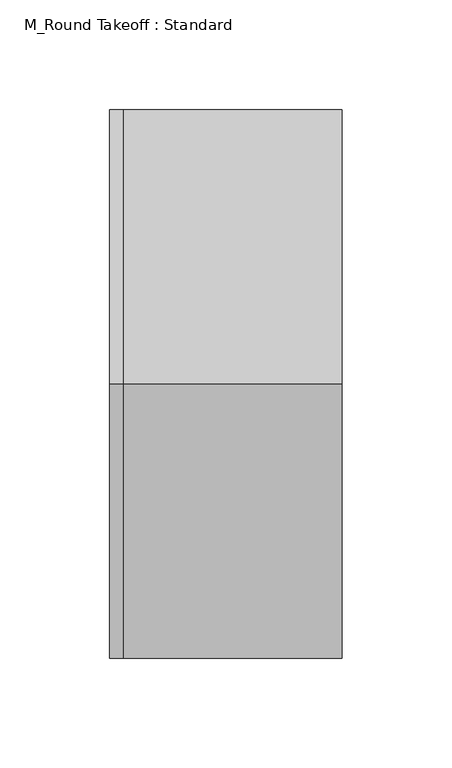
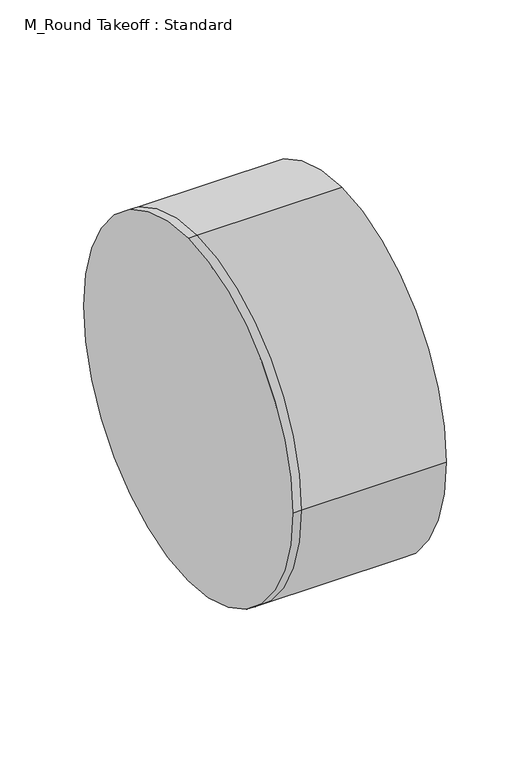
"""IFC4 building model written with IfcOpenShell, lengths in millimetres: duct fitting geometry, M_Round Takeoff : Standard."""

from ifc_helpers import new_model, si_unit, frame, origin, place, context, project, spatial, circle_curve, source, transform, mapped, element, save
from ifc_brep_helpers import plane_surface, cylinder_surface, advanced_brep


def m_round_takeoff_standard_4aec91d0(model_context):
    return source(origin(), model_context, "Body", "AdvancedBrep", [
        advanced_brep(
        [(-6.0977045, 0.0, 125.0), (-6.0977045, 125.0, 0.0), (-6.0977045, 0.0, -125.0), (-6.0977045, -125.0, 0.0), (0.0, 0.0, 125.0), (0.0, 125.0, 0.0), (0.0, 0.0, -125.0), (0.0, -125.0, 0.0), (100.0017045, 0.0, 125.0), (100.0017045, -125.0, 0.0), (100.0017045, 0.0, -125.0), (100.0017045, 125.0, 0.0)],
        [
            (0, 1, circle_curve(frame((-6.0977045, 0.0, 0.0), z_axis=(-1.0, 0.0, 0.0), x_axis=(0.0, 1.0, 0.0)), 125.0)),
            (1, 2, circle_curve(frame((-6.0977045, 0.0, 0.0), z_axis=(-1.0, 0.0, 0.0), x_axis=(0.0, 1.0, 0.0)), 125.0)),
            (2, 3, circle_curve(frame((-6.0977045, 0.0, 0.0), z_axis=(-1.0, 0.0, 0.0), x_axis=(0.0, 1.0, 0.0)), 125.0)),
            (3, 0, circle_curve(frame((-6.0977045, 0.0, 0.0), z_axis=(-1.0, 0.0, 0.0), x_axis=(0.0, 1.0, 0.0)), 125.0)),
            (0, 4),
            (4, 5, circle_curve(frame((0.0, 0.0, 0.0), z_axis=(-1.0, 0.0, 0.0), x_axis=(0.0, 1.0, 0.0)), 125.0)),
            (5, 1),
            (5, 6, circle_curve(frame((0.0, 0.0, 0.0), z_axis=(-1.0, 0.0, 0.0), x_axis=(0.0, 1.0, 0.0)), 125.0)),
            (6, 2),
            (6, 7, circle_curve(frame((0.0, 0.0, 0.0), z_axis=(-1.0, 0.0, 0.0), x_axis=(0.0, 1.0, 0.0)), 125.0)),
            (7, 3),
            (7, 4, circle_curve(frame((0.0, 0.0, 0.0), z_axis=(-1.0, 0.0, 0.0), x_axis=(0.0, 1.0, 0.0)), 125.0)),
            (8, 9, circle_curve(frame((100.0017045, 0.0, 0.0), z_axis=(1.0, 0.0, 0.0), x_axis=(0.0, 1.0, 0.0)), 125.0)),
            (9, 10, circle_curve(frame((100.0017045, 0.0, 0.0), z_axis=(1.0, 0.0, 0.0), x_axis=(0.0, 1.0, 0.0)), 125.0)),
            (10, 11, circle_curve(frame((100.0017045, 0.0, 0.0), z_axis=(1.0, 0.0, 0.0), x_axis=(0.0, 1.0, 0.0)), 125.0)),
            (11, 8, circle_curve(frame((100.0017045, 0.0, 0.0), z_axis=(1.0, 0.0, 0.0), x_axis=(0.0, 1.0, 0.0)), 125.0)),
            (11, 5),
            (4, 8),
            (10, 6),
            (9, 7),
        ],
        [
            plane_surface(frame((-6.0977045, 0.0, 0.0), z_axis=(-1.0, 0.0, 0.0), x_axis=(0.0, 0.0, 1.0))),
            cylinder_surface(frame((-6.0977045, 0.0, 0.0), z_axis=(-1.0, 0.0, 0.0), x_axis=(0.0, 1.0, 0.0)), 125.0),
            plane_surface(frame((100.0017045, 0.0, 0.0), z_axis=(1.0, 0.0, 0.0), x_axis=(0.0, 0.0, 1.0))),
            cylinder_surface(frame((0.0, 0.0, 0.0), z_axis=(-1.0, 0.0, 0.0), x_axis=(0.0, 1.0, 0.0)), 125.0),
        ],
        [
            (0, [[1, 2, 3, 4]]),
            (1, [[-1, 5, 6, 7]]),
            (1, [[-2, -7, 8, 9]]),
            (1, [[-3, -9, 10, 11]]),
            (1, [[-4, -11, 12, -5]]),
            (2, [[13, 14, 15, 16]]),
            (3, [[-16, 17, -6, 18]]),
            (3, [[-15, 19, -8, -17]]),
            (3, [[-14, 20, -10, -19]]),
            (3, [[-13, -18, -12, -20]]),
        ],
    ),
        advanced_brep(
        [(100.0017045, 0.0, 125.0), (100.0017045, -125.0, 0.0), (100.0017045, 0.0, -125.0), (100.0017045, 125.0, 0.0), (0.0, 125.0, 0.0), (0.0, 0.0, 125.0), (0.0, 0.0, -125.0), (0.0, -125.0, 0.0), (-6.0977045, 0.0, 125.0), (-6.0977045, 125.0, 0.0), (-6.0977045, 0.0, -125.0), (-6.0977045, -125.0, 0.0)],
        [
            (0, 1, circle_curve(frame((100.0017045, 0.0, 0.0), z_axis=(1.0, 0.0, 0.0), x_axis=(0.0, 1.0, 0.0)), 125.0)),
            (1, 2, circle_curve(frame((100.0017045, 0.0, 0.0), z_axis=(1.0, 0.0, 0.0), x_axis=(0.0, 1.0, 0.0)), 125.0)),
            (2, 3, circle_curve(frame((100.0017045, 0.0, 0.0), z_axis=(1.0, 0.0, 0.0), x_axis=(0.0, 1.0, 0.0)), 125.0)),
            (3, 0, circle_curve(frame((100.0017045, 0.0, 0.0), z_axis=(1.0, 0.0, 0.0), x_axis=(0.0, 1.0, 0.0)), 125.0)),
            (3, 4),
            (4, 5, circle_curve(frame((0.0, 0.0, 0.0), z_axis=(1.0, 0.0, 0.0), x_axis=(0.0, 1.0, 0.0)), 125.0)),
            (5, 0),
            (2, 6),
            (6, 4, circle_curve(frame((0.0, 0.0, 0.0), z_axis=(1.0, 0.0, 0.0), x_axis=(0.0, 1.0, 0.0)), 125.0)),
            (1, 7),
            (7, 6, circle_curve(frame((0.0, 0.0, 0.0), z_axis=(1.0, 0.0, 0.0), x_axis=(0.0, 1.0, 0.0)), 125.0)),
            (5, 7, circle_curve(frame((0.0, 0.0, 0.0), z_axis=(1.0, 0.0, 0.0), x_axis=(0.0, 1.0, 0.0)), 125.0)),
            (8, 9, circle_curve(frame((-6.0977045, 0.0, 0.0), z_axis=(-1.0, 0.0, 0.0), x_axis=(0.0, 1.0, 0.0)), 125.0)),
            (9, 10, circle_curve(frame((-6.0977045, 0.0, 0.0), z_axis=(-1.0, 0.0, 0.0), x_axis=(0.0, 1.0, 0.0)), 125.0)),
            (10, 11, circle_curve(frame((-6.0977045, 0.0, 0.0), z_axis=(-1.0, 0.0, 0.0), x_axis=(0.0, 1.0, 0.0)), 125.0)),
            (11, 8, circle_curve(frame((-6.0977045, 0.0, 0.0), z_axis=(-1.0, 0.0, 0.0), x_axis=(0.0, 1.0, 0.0)), 125.0)),
            (8, 5),
            (4, 9),
            (6, 10),
            (7, 11),
        ],
        [
            plane_surface(frame((100.0017045, 0.0, 0.0), z_axis=(1.0, 0.0, 0.0), x_axis=(0.0, 0.0, 1.0))),
            cylinder_surface(frame((0.0, 0.0, 0.0), z_axis=(-1.0, 0.0, 0.0), x_axis=(0.0, 1.0, 0.0)), 125.0),
            plane_surface(frame((-6.0977045, 0.0, 0.0), z_axis=(-1.0, 0.0, 0.0), x_axis=(0.0, 0.0, 1.0))),
            cylinder_surface(frame((-6.0977045, 0.0, 0.0), z_axis=(-1.0, 0.0, 0.0), x_axis=(0.0, 1.0, 0.0)), 125.0),
        ],
        [
            (0, [[1, 2, 3, 4]]),
            (1, [[-4, 5, 6, 7]]),
            (1, [[-3, 8, 9, -5]]),
            (1, [[-2, 10, 11, -8]]),
            (1, [[-1, -7, 12, -10]]),
            (2, [[13, 14, 15, 16]]),
            (3, [[-13, 17, -6, 18]]),
            (3, [[-14, -18, -9, 19]]),
            (3, [[-15, -19, -11, 20]]),
            (3, [[-16, -20, -12, -17]]),
        ],
    ),
        advanced_brep(
        [(-6.0977045, 0.0, 125.0), (-6.0977045, 125.0, 0.0), (-6.0977045, 0.0, -125.0), (-6.0977045, -125.0, 0.0), (0.0, 0.0, 125.0), (0.0, 125.0, 0.0), (0.0, 0.0, -125.0), (0.0, -125.0, 0.0), (100.0017045, 0.0, 125.0), (100.0017045, -125.0, 0.0), (100.0017045, 0.0, -125.0), (100.0017045, 125.0, 0.0)],
        [
            (0, 1, circle_curve(frame((-6.0977045, 0.0, 0.0), z_axis=(-1.0, 0.0, 0.0), x_axis=(0.0, 1.0, 0.0)), 125.0)),
            (1, 2, circle_curve(frame((-6.0977045, 0.0, 0.0), z_axis=(-1.0, 0.0, 0.0), x_axis=(0.0, 1.0, 0.0)), 125.0)),
            (2, 3, circle_curve(frame((-6.0977045, 0.0, 0.0), z_axis=(-1.0, 0.0, 0.0), x_axis=(0.0, 1.0, 0.0)), 125.0)),
            (3, 0, circle_curve(frame((-6.0977045, 0.0, 0.0), z_axis=(-1.0, 0.0, 0.0), x_axis=(0.0, 1.0, 0.0)), 125.0)),
            (0, 4),
            (4, 5, circle_curve(frame((0.0, 0.0, 0.0), z_axis=(-1.0, 0.0, 0.0), x_axis=(0.0, 1.0, 0.0)), 125.0)),
            (5, 1),
            (5, 6, circle_curve(frame((0.0, 0.0, 0.0), z_axis=(-1.0, 0.0, 0.0), x_axis=(0.0, 1.0, 0.0)), 125.0)),
            (6, 2),
            (6, 7, circle_curve(frame((0.0, 0.0, 0.0), z_axis=(-1.0, 0.0, 0.0), x_axis=(0.0, 1.0, 0.0)), 125.0)),
            (7, 3),
            (7, 4, circle_curve(frame((0.0, 0.0, 0.0), z_axis=(-1.0, 0.0, 0.0), x_axis=(0.0, 1.0, 0.0)), 125.0)),
            (8, 9, circle_curve(frame((100.0017045, 0.0, 0.0), z_axis=(1.0, 0.0, 0.0), x_axis=(0.0, 1.0, 0.0)), 125.0)),
            (9, 10, circle_curve(frame((100.0017045, 0.0, 0.0), z_axis=(1.0, 0.0, 0.0), x_axis=(0.0, 1.0, 0.0)), 125.0)),
            (10, 11, circle_curve(frame((100.0017045, 0.0, 0.0), z_axis=(1.0, 0.0, 0.0), x_axis=(0.0, 1.0, 0.0)), 125.0)),
            (11, 8, circle_curve(frame((100.0017045, 0.0, 0.0), z_axis=(1.0, 0.0, 0.0), x_axis=(0.0, 1.0, 0.0)), 125.0)),
            (11, 5),
            (4, 8),
            (10, 6),
            (9, 7),
        ],
        [
            plane_surface(frame((-6.0977045, 0.0, 0.0), z_axis=(-1.0, 0.0, 0.0), x_axis=(0.0, 0.0, 1.0))),
            cylinder_surface(frame((-6.0977045, 0.0, 0.0), z_axis=(-1.0, 0.0, 0.0), x_axis=(0.0, 1.0, 0.0)), 125.0),
            plane_surface(frame((100.0017045, 0.0, 0.0), z_axis=(1.0, 0.0, 0.0), x_axis=(0.0, 0.0, 1.0))),
            cylinder_surface(frame((0.0, 0.0, 0.0), z_axis=(-1.0, 0.0, 0.0), x_axis=(0.0, 1.0, 0.0)), 125.0),
        ],
        [
            (0, [[1, 2, 3, 4]]),
            (1, [[-1, 5, 6, 7]]),
            (1, [[-2, -7, 8, 9]]),
            (1, [[-3, -9, 10, 11]]),
            (1, [[-4, -11, 12, -5]]),
            (2, [[13, 14, 15, 16]]),
            (3, [[-16, 17, -6, 18]]),
            (3, [[-15, 19, -8, -17]]),
            (3, [[-14, 20, -10, -19]]),
            (3, [[-13, -18, -12, -20]]),
        ],
    ),
    ])


if __name__ == "__main__":
    model = new_model("IFC4")
    model_context = context("Model", 3, world=origin())
    ifc_project = project(units=[si_unit("LENGTHUNIT", "METRE", prefix="MILLI")], contexts=[model_context])
    site = spatial("IfcSite", under=ifc_project)
    building = spatial("IfcBuilding", under=site)
    placement = place(None, origin())
    m_round_takeoff_standard_shape = m_round_takeoff_standard_4aec91d0(model_context)
    element("IfcDuctFitting", 1, ObjectType="M_Round Takeoff : Standard", at=placement, inside=building, context=model_context, shape_type="MappedRepresentation", body=[
        mapped(m_round_takeoff_standard_shape, transform((0.0, 0.0, 0.0), x_axis=(1.0, 0.0, 0.0), y_axis=(0.0, 1.0, 0.0), z_axis=(0.0, 0.0, 1.0))),
    ])
    save(model, "model.ifc")
